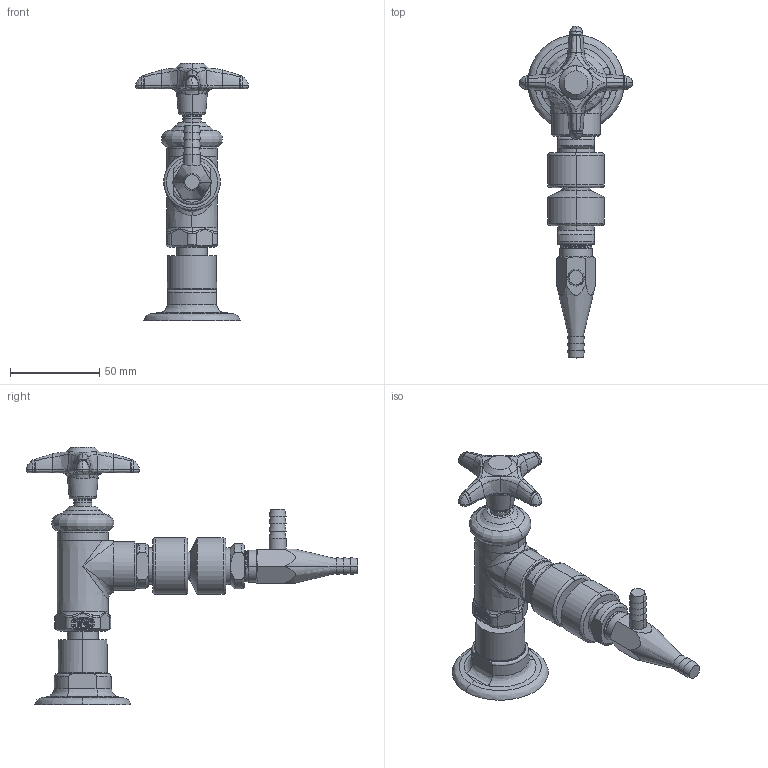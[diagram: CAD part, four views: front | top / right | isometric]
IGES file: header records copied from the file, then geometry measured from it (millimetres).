
Start section:  PTC IGES file: LWV2-C62-50.igs
Global section: file name: LWV2-C62-50.igs; native system: Creo Parametric by PTC Inc.; preprocessor: 2014500; author: usch_engrender; organization: Unknown; date: 20151117.120545; units: inch
Bounding box: 63.42 x 185.63 x 143.82 mm (x, y, z)
Volume: 151036.6 mm3; surface area: 35459.7 mm2
Topology: 1 solids, 4 shells, 542 faces, 1260 edges, 750 vertices
Faces by surface type: bspline 290, revolution 252
